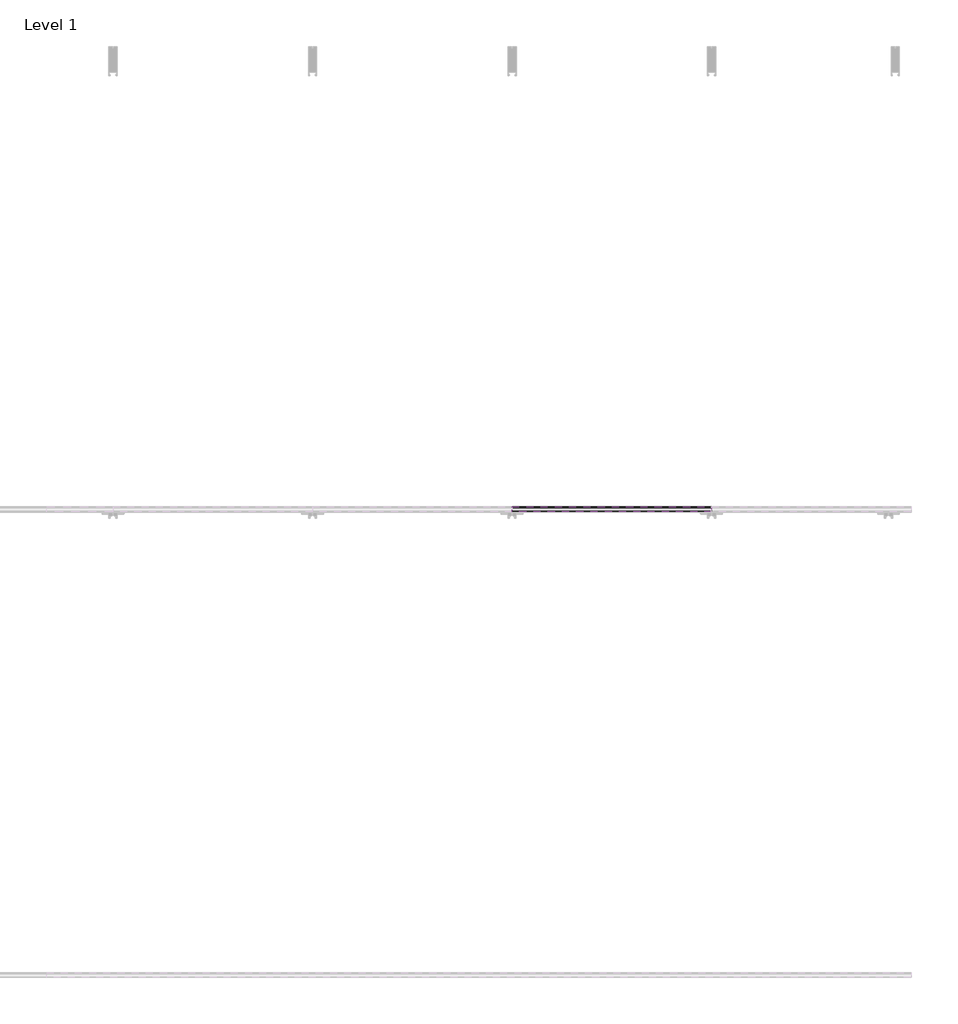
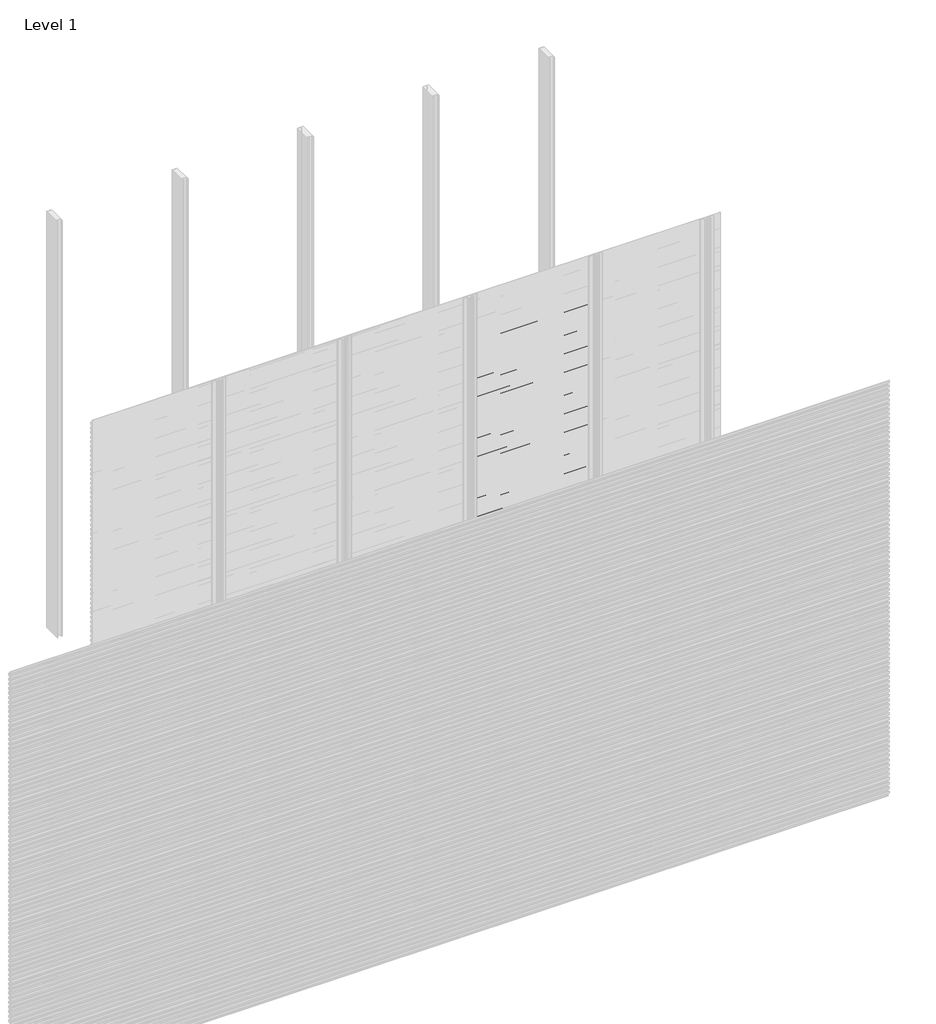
# One storey, part 11 of 96: 77 proxies.
"""IFC4 building model written with IfcOpenShell, lengths in millimetres."""

from ifc_helpers import new_model, si_unit, frame, origin, place, context, project, spatial, polyline, outline, extrude, element, save

model = new_model("IFC4")

# Units and contexts
model_context = context("Model", 3, world=origin())
ifc_project = project(units=[si_unit("LENGTHUNIT", "METRE", prefix="MILLI")], contexts=[model_context])

# Site, building, storey
site = spatial("IfcSite", under=ifc_project)
building = spatial("IfcBuilding", under=site)
storey = spatial("IfcBuildingStorey", under=building, Name="Level 1", Elevation=0.0)

# Proxies
placement = place(None, origin())
element("IfcBuildingElementProxy", 1, Name="Wall Sweeps", at=placement, inside=storey, context=model_context, shape_type="SweptSolid", body=[
    extrude(outline(polyline([(-53977.6, 2672.0655033), (-53977.6, 2657.7779188), (-53982.4114965, 2655.0), (-53982.4114965, 2656.2701706), (-53978.85, 2658.3264016), (-53978.85, 2671.3437382), (-53998.0, 2682.4000799), (-53998.0, 2697.3), (-53996.75, 2697.3), (-53996.75, 2683.1217609), (-53977.6, 2672.0655033)])), frame((4285.7142857, 0.0, 0.0), z_axis=(1.0, 0.0, 0.0), x_axis=(0.0, 1.0, 0.0)), (0.0, 0.0, 1.0), 857.1428571),
])
element("IfcBuildingElementProxy", 2, Name="Wall Sweeps", at=placement, inside=storey, context=model_context, shape_type="SweptSolid", body=[
    extrude(outline(polyline([(-53977.6, 2638.7655033), (-53977.6, 2624.4779188), (-53982.4114965, 2621.7), (-53982.4114965, 2622.9701706), (-53978.85, 2625.0264016), (-53978.85, 2638.0437382), (-53998.0, 2649.1000799), (-53998.0, 2664.0), (-53996.75, 2664.0), (-53996.75, 2649.8217609), (-53977.6, 2638.7655033)])), frame((4285.7142857, 0.0, 0.0), z_axis=(1.0, 0.0, 0.0), x_axis=(0.0, 1.0, 0.0)), (0.0, 0.0, 1.0), 857.1428571),
])
element("IfcBuildingElementProxy", 3, Name="Wall Sweeps", at=placement, inside=storey, context=model_context, shape_type="SweptSolid", body=[
    extrude(outline(polyline([(-53977.6, 2605.4655033), (-53977.6, 2591.1779188), (-53982.4114965, 2588.4), (-53982.4114965, 2589.6701706), (-53978.85, 2591.7264016), (-53978.85, 2604.7437382), (-53998.0, 2615.8000799), (-53998.0, 2630.7), (-53996.75, 2630.7), (-53996.75, 2616.5217609), (-53977.6, 2605.4655033)])), frame((4285.7142857, 0.0, 0.0), z_axis=(1.0, 0.0, 0.0), x_axis=(0.0, 1.0, 0.0)), (0.0, 0.0, 1.0), 857.1428571),
])
element("IfcBuildingElementProxy", 4, Name="Wall Sweeps", at=placement, inside=storey, context=model_context, shape_type="SweptSolid", body=[
    extrude(outline(polyline([(-53977.6, 2572.1655033), (-53977.6, 2557.8779188), (-53982.4114965, 2555.1), (-53982.4114965, 2556.3701706), (-53978.85, 2558.4264016), (-53978.85, 2571.4437382), (-53998.0, 2582.5000799), (-53998.0, 2597.4), (-53996.75, 2597.4), (-53996.75, 2583.2217609), (-53977.6, 2572.1655033)])), frame((4285.7142857, 0.0, 0.0), z_axis=(1.0, 0.0, 0.0), x_axis=(0.0, 1.0, 0.0)), (0.0, 0.0, 1.0), 857.1428571),
])
element("IfcBuildingElementProxy", 5, Name="Wall Sweeps", at=placement, inside=storey, context=model_context, shape_type="SweptSolid", body=[
    extrude(outline(polyline([(-53977.6, 2538.8655033), (-53977.6, 2524.5779188), (-53982.4114965, 2521.8), (-53982.4114965, 2523.0701706), (-53978.85, 2525.1264016), (-53978.85, 2538.1437382), (-53998.0, 2549.2000799), (-53998.0, 2564.1), (-53996.75, 2564.1), (-53996.75, 2549.9217609), (-53977.6, 2538.8655033)])), frame((4285.7142857, 0.0, 0.0), z_axis=(1.0, 0.0, 0.0), x_axis=(0.0, 1.0, 0.0)), (0.0, 0.0, 1.0), 857.1428571),
])
element("IfcBuildingElementProxy", 6, Name="Wall Sweeps", at=placement, inside=storey, context=model_context, shape_type="SweptSolid", body=[
    extrude(outline(polyline([(-53977.6, 2505.5655033), (-53977.6, 2491.2779188), (-53982.4114965, 2488.5), (-53982.4114965, 2489.7701706), (-53978.85, 2491.8264016), (-53978.85, 2504.8437382), (-53998.0, 2515.9000799), (-53998.0, 2530.8), (-53996.75, 2530.8), (-53996.75, 2516.6217609), (-53977.6, 2505.5655033)])), frame((4285.7142857, 0.0, 0.0), z_axis=(1.0, 0.0, 0.0), x_axis=(0.0, 1.0, 0.0)), (0.0, 0.0, 1.0), 857.1428571),
])
element("IfcBuildingElementProxy", 7, Name="Wall Sweeps", at=placement, inside=storey, context=model_context, shape_type="SweptSolid", body=[
    extrude(outline(polyline([(-53977.6, 2472.2655033), (-53977.6, 2457.9779188), (-53982.4114965, 2455.2), (-53982.4114965, 2456.4701706), (-53978.85, 2458.5264016), (-53978.85, 2471.5437382), (-53998.0, 2482.6000799), (-53998.0, 2497.5), (-53996.75, 2497.5), (-53996.75, 2483.3217609), (-53977.6, 2472.2655033)])), frame((4285.7142857, 0.0, 0.0), z_axis=(1.0, 0.0, 0.0), x_axis=(0.0, 1.0, 0.0)), (0.0, 0.0, 1.0), 857.1428571),
])
element("IfcBuildingElementProxy", 8, Name="Wall Sweeps", at=placement, inside=storey, context=model_context, shape_type="SweptSolid", body=[
    extrude(outline(polyline([(-53977.6, 2438.9655033), (-53977.6, 2424.6779188), (-53982.4114965, 2421.9), (-53982.4114965, 2423.1701706), (-53978.85, 2425.2264016), (-53978.85, 2438.2437382), (-53998.0, 2449.3000799), (-53998.0, 2464.2), (-53996.75, 2464.2), (-53996.75, 2450.0217609), (-53977.6, 2438.9655033)])), frame((4285.7142857, 0.0, 0.0), z_axis=(1.0, 0.0, 0.0), x_axis=(0.0, 1.0, 0.0)), (0.0, 0.0, 1.0), 857.1428571),
])
element("IfcBuildingElementProxy", 9, Name="Wall Sweeps", at=placement, inside=storey, context=model_context, shape_type="SweptSolid", body=[
    extrude(outline(polyline([(-53977.6, 2405.6655033), (-53977.6, 2391.3779188), (-53982.4114965, 2388.6), (-53982.4114965, 2389.8701706), (-53978.85, 2391.9264016), (-53978.85, 2404.9437382), (-53998.0, 2416.0000799), (-53998.0, 2430.9), (-53996.75, 2430.9), (-53996.75, 2416.7217609), (-53977.6, 2405.6655033)])), frame((4285.7142857, 0.0, 0.0), z_axis=(1.0, 0.0, 0.0), x_axis=(0.0, 1.0, 0.0)), (0.0, 0.0, 1.0), 857.1428571),
])
element("IfcBuildingElementProxy", 10, Name="Wall Sweeps", at=placement, inside=storey, context=model_context, shape_type="SweptSolid", body=[
    extrude(outline(polyline([(-53977.6, 2372.3655033), (-53977.6, 2358.0779188), (-53982.4114965, 2355.3), (-53982.4114965, 2356.5701706), (-53978.85, 2358.6264016), (-53978.85, 2371.6437382), (-53998.0, 2382.7000799), (-53998.0, 2397.6), (-53996.75, 2397.6), (-53996.75, 2383.4217609), (-53977.6, 2372.3655033)])), frame((4285.7142857, 0.0, 0.0), z_axis=(1.0, 0.0, 0.0), x_axis=(0.0, 1.0, 0.0)), (0.0, 0.0, 1.0), 857.1428571),
])
element("IfcBuildingElementProxy", 11, Name="Wall Sweeps", at=placement, inside=storey, context=model_context, shape_type="SweptSolid", body=[
    extrude(outline(polyline([(-53977.6, 2339.0655033), (-53977.6, 2324.7779188), (-53982.4114965, 2322.0), (-53982.4114965, 2323.2701706), (-53978.85, 2325.3264016), (-53978.85, 2338.3437382), (-53998.0, 2349.4000799), (-53998.0, 2364.3), (-53996.75, 2364.3), (-53996.75, 2350.1217609), (-53977.6, 2339.0655033)])), frame((4285.7142857, 0.0, 0.0), z_axis=(1.0, 0.0, 0.0), x_axis=(0.0, 1.0, 0.0)), (0.0, 0.0, 1.0), 857.1428571),
])
element("IfcBuildingElementProxy", 12, Name="Wall Sweeps", at=placement, inside=storey, context=model_context, shape_type="SweptSolid", body=[
    extrude(outline(polyline([(-53977.6, 2305.7655033), (-53977.6, 2291.4779188), (-53982.4114965, 2288.7), (-53982.4114965, 2289.9701706), (-53978.85, 2292.0264016), (-53978.85, 2305.0437382), (-53998.0, 2316.1000799), (-53998.0, 2331.0), (-53996.75, 2331.0), (-53996.75, 2316.8217609), (-53977.6, 2305.7655033)])), frame((4285.7142857, 0.0, 0.0), z_axis=(1.0, 0.0, 0.0), x_axis=(0.0, 1.0, 0.0)), (0.0, 0.0, 1.0), 857.1428571),
])
element("IfcBuildingElementProxy", 13, Name="Wall Sweeps", at=placement, inside=storey, context=model_context, shape_type="SweptSolid", body=[
    extrude(outline(polyline([(-53977.6, 2272.4655033), (-53977.6, 2258.1779188), (-53982.4114965, 2255.4), (-53982.4114965, 2256.6701706), (-53978.85, 2258.7264016), (-53978.85, 2271.7437382), (-53998.0, 2282.8000799), (-53998.0, 2297.7), (-53996.75, 2297.7), (-53996.75, 2283.5217609), (-53977.6, 2272.4655033)])), frame((4285.7142857, 0.0, 0.0), z_axis=(1.0, 0.0, 0.0), x_axis=(0.0, 1.0, 0.0)), (0.0, 0.0, 1.0), 857.1428571),
])
element("IfcBuildingElementProxy", 14, Name="Wall Sweeps", at=placement, inside=storey, context=model_context, shape_type="SweptSolid", body=[
    extrude(outline(polyline([(-53977.6, 2239.1655033), (-53977.6, 2224.8779188), (-53982.4114965, 2222.1), (-53982.4114965, 2223.3701706), (-53978.85, 2225.4264016), (-53978.85, 2238.4437382), (-53998.0, 2249.5000799), (-53998.0, 2264.4), (-53996.75, 2264.4), (-53996.75, 2250.2217609), (-53977.6, 2239.1655033)])), frame((4285.7142857, 0.0, 0.0), z_axis=(1.0, 0.0, 0.0), x_axis=(0.0, 1.0, 0.0)), (0.0, 0.0, 1.0), 857.1428571),
])
element("IfcBuildingElementProxy", 15, Name="Wall Sweeps", at=placement, inside=storey, context=model_context, shape_type="SweptSolid", body=[
    extrude(outline(polyline([(-53977.6, 2205.8655033), (-53977.6, 2191.5779188), (-53982.4114965, 2188.8), (-53982.4114965, 2190.0701706), (-53978.85, 2192.1264016), (-53978.85, 2205.1437382), (-53998.0, 2216.2000799), (-53998.0, 2231.1), (-53996.75, 2231.1), (-53996.75, 2216.9217609), (-53977.6, 2205.8655033)])), frame((4285.7142857, 0.0, 0.0), z_axis=(1.0, 0.0, 0.0), x_axis=(0.0, 1.0, 0.0)), (0.0, 0.0, 1.0), 857.1428571),
])
element("IfcBuildingElementProxy", 16, Name="Wall Sweeps", at=placement, inside=storey, context=model_context, shape_type="SweptSolid", body=[
    extrude(outline(polyline([(-53977.6, 2172.5655033), (-53977.6, 2158.2779188), (-53982.4114965, 2155.5), (-53982.4114965, 2156.7701706), (-53978.85, 2158.8264016), (-53978.85, 2171.8437382), (-53998.0, 2182.9000799), (-53998.0, 2197.8), (-53996.75, 2197.8), (-53996.75, 2183.6217609), (-53977.6, 2172.5655033)])), frame((4285.7142857, 0.0, 0.0), z_axis=(1.0, 0.0, 0.0), x_axis=(0.0, 1.0, 0.0)), (0.0, 0.0, 1.0), 857.1428571),
])
element("IfcBuildingElementProxy", 17, Name="Wall Sweeps", at=placement, inside=storey, context=model_context, shape_type="SweptSolid", body=[
    extrude(outline(polyline([(-53977.6, 2139.2655033), (-53977.6, 2124.9779188), (-53982.4114965, 2122.2), (-53982.4114965, 2123.4701706), (-53978.85, 2125.5264016), (-53978.85, 2138.5437382), (-53998.0, 2149.6000799), (-53998.0, 2164.5), (-53996.75, 2164.5), (-53996.75, 2150.3217609), (-53977.6, 2139.2655033)])), frame((4285.7142857, 0.0, 0.0), z_axis=(1.0, 0.0, 0.0), x_axis=(0.0, 1.0, 0.0)), (0.0, 0.0, 1.0), 857.1428571),
])
element("IfcBuildingElementProxy", 18, Name="Wall Sweeps", at=placement, inside=storey, context=model_context, shape_type="SweptSolid", body=[
    extrude(outline(polyline([(-53977.6, 2105.9655033), (-53977.6, 2091.6779188), (-53982.4114965, 2088.9), (-53982.4114965, 2090.1701706), (-53978.85, 2092.2264016), (-53978.85, 2105.2437382), (-53998.0, 2116.3000799), (-53998.0, 2131.2), (-53996.75, 2131.2), (-53996.75, 2117.0217609), (-53977.6, 2105.9655033)])), frame((4285.7142857, 0.0, 0.0), z_axis=(1.0, 0.0, 0.0), x_axis=(0.0, 1.0, 0.0)), (0.0, 0.0, 1.0), 857.1428571),
])
element("IfcBuildingElementProxy", 19, Name="Wall Sweeps", at=placement, inside=storey, context=model_context, shape_type="SweptSolid", body=[
    extrude(outline(polyline([(-53977.6, 2072.6655033), (-53977.6, 2058.3779188), (-53982.4114965, 2055.6), (-53982.4114965, 2056.8701706), (-53978.85, 2058.9264016), (-53978.85, 2071.9437382), (-53998.0, 2083.0000799), (-53998.0, 2097.9), (-53996.75, 2097.9), (-53996.75, 2083.7217609), (-53977.6, 2072.6655033)])), frame((4285.7142857, 0.0, 0.0), z_axis=(1.0, 0.0, 0.0), x_axis=(0.0, 1.0, 0.0)), (0.0, 0.0, 1.0), 857.1428571),
])
element("IfcBuildingElementProxy", 20, Name="Wall Sweeps", at=placement, inside=storey, context=model_context, shape_type="SweptSolid", body=[
    extrude(outline(polyline([(-53977.6, 2039.3655033), (-53977.6, 2025.0779188), (-53982.4114965, 2022.3), (-53982.4114965, 2023.5701706), (-53978.85, 2025.6264016), (-53978.85, 2038.6437382), (-53998.0, 2049.7000799), (-53998.0, 2064.6), (-53996.75, 2064.6), (-53996.75, 2050.4217609), (-53977.6, 2039.3655033)])), frame((4285.7142857, 0.0, 0.0), z_axis=(1.0, 0.0, 0.0), x_axis=(0.0, 1.0, 0.0)), (0.0, 0.0, 1.0), 857.1428571),
])
element("IfcBuildingElementProxy", 21, Name="Wall Sweeps", at=placement, inside=storey, context=model_context, shape_type="SweptSolid", body=[
    extrude(outline(polyline([(-53977.6, 2006.0655033), (-53977.6, 1991.7779188), (-53982.4114965, 1989.0), (-53982.4114965, 1990.2701706), (-53978.85, 1992.3264016), (-53978.85, 2005.3437382), (-53998.0, 2016.4000799), (-53998.0, 2031.3), (-53996.75, 2031.3), (-53996.75, 2017.1217609), (-53977.6, 2006.0655033)])), frame((4285.7142857, 0.0, 0.0), z_axis=(1.0, 0.0, 0.0), x_axis=(0.0, 1.0, 0.0)), (0.0, 0.0, 1.0), 857.1428571),
])
element("IfcBuildingElementProxy", 22, Name="Wall Sweeps", at=placement, inside=storey, context=model_context, shape_type="SweptSolid", body=[
    extrude(outline(polyline([(-53977.6, 1972.7655033), (-53977.6, 1958.4779188), (-53982.4114965, 1955.7), (-53982.4114965, 1956.9701706), (-53978.85, 1959.0264016), (-53978.85, 1972.0437382), (-53998.0, 1983.1000799), (-53998.0, 1998.0), (-53996.75, 1998.0), (-53996.75, 1983.8217609), (-53977.6, 1972.7655033)])), frame((4285.7142857, 0.0, 0.0), z_axis=(1.0, 0.0, 0.0), x_axis=(0.0, 1.0, 0.0)), (0.0, 0.0, 1.0), 857.1428571),
])
element("IfcBuildingElementProxy", 23, Name="Wall Sweeps", at=placement, inside=storey, context=model_context, shape_type="SweptSolid", body=[
    extrude(outline(polyline([(-53977.6, 1939.4655033), (-53977.6, 1925.1779188), (-53982.4114965, 1922.4), (-53982.4114965, 1923.6701706), (-53978.85, 1925.7264016), (-53978.85, 1938.7437382), (-53998.0, 1949.8000799), (-53998.0, 1964.7), (-53996.75, 1964.7), (-53996.75, 1950.5217609), (-53977.6, 1939.4655033)])), frame((4285.7142857, 0.0, 0.0), z_axis=(1.0, 0.0, 0.0), x_axis=(0.0, 1.0, 0.0)), (0.0, 0.0, 1.0), 857.1428571),
])
element("IfcBuildingElementProxy", 24, Name="Wall Sweeps", at=placement, inside=storey, context=model_context, shape_type="SweptSolid", body=[
    extrude(outline(polyline([(-53977.6, 1906.1655033), (-53977.6, 1891.8779188), (-53982.4114965, 1889.1), (-53982.4114965, 1890.3701706), (-53978.85, 1892.4264016), (-53978.85, 1905.4437382), (-53998.0, 1916.5000799), (-53998.0, 1931.4), (-53996.75, 1931.4), (-53996.75, 1917.2217609), (-53977.6, 1906.1655033)])), frame((4285.7142857, 0.0, 0.0), z_axis=(1.0, 0.0, 0.0), x_axis=(0.0, 1.0, 0.0)), (0.0, 0.0, 1.0), 857.1428571),
])
element("IfcBuildingElementProxy", 25, Name="Wall Sweeps", at=placement, inside=storey, context=model_context, shape_type="SweptSolid", body=[
    extrude(outline(polyline([(-53977.6, 1872.8655033), (-53977.6, 1858.5779188), (-53982.4114965, 1855.8), (-53982.4114965, 1857.0701706), (-53978.85, 1859.1264016), (-53978.85, 1872.1437382), (-53998.0, 1883.2000799), (-53998.0, 1898.1), (-53996.75, 1898.1), (-53996.75, 1883.9217609), (-53977.6, 1872.8655033)])), frame((4285.7142857, 0.0, 0.0), z_axis=(1.0, 0.0, 0.0), x_axis=(0.0, 1.0, 0.0)), (0.0, 0.0, 1.0), 857.1428571),
])
element("IfcBuildingElementProxy", 26, Name="Wall Sweeps", at=placement, inside=storey, context=model_context, shape_type="SweptSolid", body=[
    extrude(outline(polyline([(-53977.6, 1839.5655033), (-53977.6, 1825.2779188), (-53982.4114965, 1822.5), (-53982.4114965, 1823.7701706), (-53978.85, 1825.8264016), (-53978.85, 1838.8437382), (-53998.0, 1849.9000799), (-53998.0, 1864.8), (-53996.75, 1864.8), (-53996.75, 1850.6217609), (-53977.6, 1839.5655033)])), frame((4285.7142857, 0.0, 0.0), z_axis=(1.0, 0.0, 0.0), x_axis=(0.0, 1.0, 0.0)), (0.0, 0.0, 1.0), 857.1428571),
])
element("IfcBuildingElementProxy", 27, Name="Wall Sweeps", at=placement, inside=storey, context=model_context, shape_type="SweptSolid", body=[
    extrude(outline(polyline([(-53977.6, 1806.2655033), (-53977.6, 1791.9779188), (-53982.4114965, 1789.2), (-53982.4114965, 1790.4701706), (-53978.85, 1792.5264016), (-53978.85, 1805.5437382), (-53998.0, 1816.6000799), (-53998.0, 1831.5), (-53996.75, 1831.5), (-53996.75, 1817.3217609), (-53977.6, 1806.2655033)])), frame((4285.7142857, 0.0, 0.0), z_axis=(1.0, 0.0, 0.0), x_axis=(0.0, 1.0, 0.0)), (0.0, 0.0, 1.0), 857.1428571),
])
element("IfcBuildingElementProxy", 28, Name="Wall Sweeps", at=placement, inside=storey, context=model_context, shape_type="SweptSolid", body=[
    extrude(outline(polyline([(-53977.6, 1772.9655033), (-53977.6, 1758.6779188), (-53982.4114965, 1755.9), (-53982.4114965, 1757.1701706), (-53978.85, 1759.2264016), (-53978.85, 1772.2437382), (-53998.0, 1783.3000799), (-53998.0, 1798.2), (-53996.75, 1798.2), (-53996.75, 1784.0217609), (-53977.6, 1772.9655033)])), frame((4285.7142857, 0.0, 0.0), z_axis=(1.0, 0.0, 0.0), x_axis=(0.0, 1.0, 0.0)), (0.0, 0.0, 1.0), 857.1428571),
])
element("IfcBuildingElementProxy", 29, Name="Wall Sweeps", at=placement, inside=storey, context=model_context, shape_type="SweptSolid", body=[
    extrude(outline(polyline([(-53977.6, 1739.6655033), (-53977.6, 1725.3779188), (-53982.4114965, 1722.6), (-53982.4114965, 1723.8701706), (-53978.85, 1725.9264016), (-53978.85, 1738.9437382), (-53998.0, 1750.0000799), (-53998.0, 1764.9), (-53996.75, 1764.9), (-53996.75, 1750.7217609), (-53977.6, 1739.6655033)])), frame((4285.7142857, 0.0, 0.0), z_axis=(1.0, 0.0, 0.0), x_axis=(0.0, 1.0, 0.0)), (0.0, 0.0, 1.0), 857.1428571),
])
element("IfcBuildingElementProxy", 30, Name="Wall Sweeps", at=placement, inside=storey, context=model_context, shape_type="SweptSolid", body=[
    extrude(outline(polyline([(-53977.6, 1706.3655033), (-53977.6, 1692.0779188), (-53982.4114965, 1689.3), (-53982.4114965, 1690.5701706), (-53978.85, 1692.6264016), (-53978.85, 1705.6437382), (-53998.0, 1716.7000799), (-53998.0, 1731.6), (-53996.75, 1731.6), (-53996.75, 1717.4217609), (-53977.6, 1706.3655033)])), frame((4285.7142857, 0.0, 0.0), z_axis=(1.0, 0.0, 0.0), x_axis=(0.0, 1.0, 0.0)), (0.0, 0.0, 1.0), 857.1428571),
])
element("IfcBuildingElementProxy", 31, Name="Wall Sweeps", at=placement, inside=storey, context=model_context, shape_type="SweptSolid", body=[
    extrude(outline(polyline([(-53977.6, 1673.0655033), (-53977.6, 1658.7779188), (-53982.4114965, 1656.0), (-53982.4114965, 1657.2701706), (-53978.85, 1659.3264016), (-53978.85, 1672.3437382), (-53998.0, 1683.4000799), (-53998.0, 1698.3), (-53996.75, 1698.3), (-53996.75, 1684.1217609), (-53977.6, 1673.0655033)])), frame((4285.7142857, 0.0, 0.0), z_axis=(1.0, 0.0, 0.0), x_axis=(0.0, 1.0, 0.0)), (0.0, 0.0, 1.0), 857.1428571),
])
element("IfcBuildingElementProxy", 32, Name="Wall Sweeps", at=placement, inside=storey, context=model_context, shape_type="SweptSolid", body=[
    extrude(outline(polyline([(-53977.6, 1639.7655033), (-53977.6, 1625.4779188), (-53982.4114965, 1622.7), (-53982.4114965, 1623.9701706), (-53978.85, 1626.0264016), (-53978.85, 1639.0437382), (-53998.0, 1650.1000799), (-53998.0, 1665.0), (-53996.75, 1665.0), (-53996.75, 1650.8217609), (-53977.6, 1639.7655033)])), frame((4285.7142857, 0.0, 0.0), z_axis=(1.0, 0.0, 0.0), x_axis=(0.0, 1.0, 0.0)), (0.0, 0.0, 1.0), 857.1428571),
])
element("IfcBuildingElementProxy", 33, Name="Wall Sweeps", at=placement, inside=storey, context=model_context, shape_type="SweptSolid", body=[
    extrude(outline(polyline([(-53977.6, 1606.4655033), (-53977.6, 1592.1779188), (-53982.4114965, 1589.4), (-53982.4114965, 1590.6701706), (-53978.85, 1592.7264016), (-53978.85, 1605.7437382), (-53998.0, 1616.8000799), (-53998.0, 1631.7), (-53996.75, 1631.7), (-53996.75, 1617.5217609), (-53977.6, 1606.4655033)])), frame((4285.7142857, 0.0, 0.0), z_axis=(1.0, 0.0, 0.0), x_axis=(0.0, 1.0, 0.0)), (0.0, 0.0, 1.0), 857.1428571),
])
element("IfcBuildingElementProxy", 34, Name="Wall Sweeps", at=placement, inside=storey, context=model_context, shape_type="SweptSolid", body=[
    extrude(outline(polyline([(-53977.6, 1573.1655033), (-53977.6, 1558.8779188), (-53982.4114965, 1556.1), (-53982.4114965, 1557.3701706), (-53978.85, 1559.4264016), (-53978.85, 1572.4437382), (-53998.0, 1583.5000799), (-53998.0, 1598.4), (-53996.75, 1598.4), (-53996.75, 1584.2217609), (-53977.6, 1573.1655033)])), frame((4285.7142857, 0.0, 0.0), z_axis=(1.0, 0.0, 0.0), x_axis=(0.0, 1.0, 0.0)), (0.0, 0.0, 1.0), 857.1428571),
])
element("IfcBuildingElementProxy", 35, Name="Wall Sweeps", at=placement, inside=storey, context=model_context, shape_type="SweptSolid", body=[
    extrude(outline(polyline([(-53977.6, 1539.8655033), (-53977.6, 1525.5779188), (-53982.4114965, 1522.8), (-53982.4114965, 1524.0701706), (-53978.85, 1526.1264016), (-53978.85, 1539.1437382), (-53998.0, 1550.2000799), (-53998.0, 1565.1), (-53996.75, 1565.1), (-53996.75, 1550.9217609), (-53977.6, 1539.8655033)])), frame((4285.7142857, 0.0, 0.0), z_axis=(1.0, 0.0, 0.0), x_axis=(0.0, 1.0, 0.0)), (0.0, 0.0, 1.0), 857.1428571),
])
element("IfcBuildingElementProxy", 36, Name="Wall Sweeps", at=placement, inside=storey, context=model_context, shape_type="SweptSolid", body=[
    extrude(outline(polyline([(-53977.6, 1506.5655033), (-53977.6, 1492.2779188), (-53982.4114965, 1489.5), (-53982.4114965, 1490.7701706), (-53978.85, 1492.8264016), (-53978.85, 1505.8437382), (-53998.0, 1516.9000799), (-53998.0, 1531.8), (-53996.75, 1531.8), (-53996.75, 1517.6217609), (-53977.6, 1506.5655033)])), frame((4285.7142857, 0.0, 0.0), z_axis=(1.0, 0.0, 0.0), x_axis=(0.0, 1.0, 0.0)), (0.0, 0.0, 1.0), 857.1428571),
])
element("IfcBuildingElementProxy", 37, Name="Wall Sweeps", at=placement, inside=storey, context=model_context, shape_type="SweptSolid", body=[
    extrude(outline(polyline([(-53977.6, 1473.2655033), (-53977.6, 1458.9779188), (-53982.4114965, 1456.2), (-53982.4114965, 1457.4701706), (-53978.85, 1459.5264016), (-53978.85, 1472.5437382), (-53998.0, 1483.6000799), (-53998.0, 1498.5), (-53996.75, 1498.5), (-53996.75, 1484.3217609), (-53977.6, 1473.2655033)])), frame((4285.7142857, 0.0, 0.0), z_axis=(1.0, 0.0, 0.0), x_axis=(0.0, 1.0, 0.0)), (0.0, 0.0, 1.0), 857.1428571),
])
element("IfcBuildingElementProxy", 38, Name="Wall Sweeps", at=placement, inside=storey, context=model_context, shape_type="SweptSolid", body=[
    extrude(outline(polyline([(-53977.6, 1439.9655033), (-53977.6, 1425.6779188), (-53982.4114965, 1422.9), (-53982.4114965, 1424.1701706), (-53978.85, 1426.2264016), (-53978.85, 1439.2437382), (-53998.0, 1450.3000799), (-53998.0, 1465.2), (-53996.75, 1465.2), (-53996.75, 1451.0217609), (-53977.6, 1439.9655033)])), frame((4285.7142857, 0.0, 0.0), z_axis=(1.0, 0.0, 0.0), x_axis=(0.0, 1.0, 0.0)), (0.0, 0.0, 1.0), 857.1428571),
])
element("IfcBuildingElementProxy", 39, Name="Wall Sweeps", at=placement, inside=storey, context=model_context, shape_type="SweptSolid", body=[
    extrude(outline(polyline([(-53977.6, 1406.6655033), (-53977.6, 1392.3779188), (-53982.4114965, 1389.6), (-53982.4114965, 1390.8701706), (-53978.85, 1392.9264016), (-53978.85, 1405.9437382), (-53998.0, 1417.0000799), (-53998.0, 1431.9), (-53996.75, 1431.9), (-53996.75, 1417.7217609), (-53977.6, 1406.6655033)])), frame((4285.7142857, 0.0, 0.0), z_axis=(1.0, 0.0, 0.0), x_axis=(0.0, 1.0, 0.0)), (0.0, 0.0, 1.0), 857.1428571),
])
element("IfcBuildingElementProxy", 40, Name="Wall Sweeps", at=placement, inside=storey, context=model_context, shape_type="SweptSolid", body=[
    extrude(outline(polyline([(-53977.6, 1373.3655033), (-53977.6, 1359.0779188), (-53982.4114965, 1356.3), (-53982.4114965, 1357.5701706), (-53978.85, 1359.6264016), (-53978.85, 1372.6437382), (-53998.0, 1383.7000799), (-53998.0, 1398.6), (-53996.75, 1398.6), (-53996.75, 1384.4217609), (-53977.6, 1373.3655033)])), frame((4285.7142857, 0.0, 0.0), z_axis=(1.0, 0.0, 0.0), x_axis=(0.0, 1.0, 0.0)), (0.0, 0.0, 1.0), 857.1428571),
])
element("IfcBuildingElementProxy", 41, Name="Wall Sweeps", at=placement, inside=storey, context=model_context, shape_type="SweptSolid", body=[
    extrude(outline(polyline([(-53977.6, 1340.0655033), (-53977.6, 1325.7779188), (-53982.4114965, 1323.0), (-53982.4114965, 1324.2701706), (-53978.85, 1326.3264016), (-53978.85, 1339.3437382), (-53998.0, 1350.4000799), (-53998.0, 1365.3), (-53996.75, 1365.3), (-53996.75, 1351.1217609), (-53977.6, 1340.0655033)])), frame((4285.7142857, 0.0, 0.0), z_axis=(1.0, 0.0, 0.0), x_axis=(0.0, 1.0, 0.0)), (0.0, 0.0, 1.0), 857.1428571),
])
element("IfcBuildingElementProxy", 42, Name="Wall Sweeps", at=placement, inside=storey, context=model_context, shape_type="SweptSolid", body=[
    extrude(outline(polyline([(-53977.6, 1306.7655033), (-53977.6, 1292.4779188), (-53982.4114965, 1289.7), (-53982.4114965, 1290.9701706), (-53978.85, 1293.0264016), (-53978.85, 1306.0437382), (-53998.0, 1317.1000799), (-53998.0, 1332.0), (-53996.75, 1332.0), (-53996.75, 1317.8217609), (-53977.6, 1306.7655033)])), frame((4285.7142857, 0.0, 0.0), z_axis=(1.0, 0.0, 0.0), x_axis=(0.0, 1.0, 0.0)), (0.0, 0.0, 1.0), 857.1428571),
])
element("IfcBuildingElementProxy", 43, Name="Wall Sweeps", at=placement, inside=storey, context=model_context, shape_type="SweptSolid", body=[
    extrude(outline(polyline([(-53977.6, 1273.4655033), (-53977.6, 1259.1779188), (-53982.4114965, 1256.4), (-53982.4114965, 1257.6701706), (-53978.85, 1259.7264016), (-53978.85, 1272.7437382), (-53998.0, 1283.8000799), (-53998.0, 1298.7), (-53996.75, 1298.7), (-53996.75, 1284.5217609), (-53977.6, 1273.4655033)])), frame((4285.7142857, 0.0, 0.0), z_axis=(1.0, 0.0, 0.0), x_axis=(0.0, 1.0, 0.0)), (0.0, 0.0, 1.0), 857.1428571),
])
element("IfcBuildingElementProxy", 44, Name="Wall Sweeps", at=placement, inside=storey, context=model_context, shape_type="SweptSolid", body=[
    extrude(outline(polyline([(-53977.6, 1240.1655033), (-53977.6, 1225.8779188), (-53982.4114965, 1223.1), (-53982.4114965, 1224.3701706), (-53978.85, 1226.4264016), (-53978.85, 1239.4437382), (-53998.0, 1250.5000799), (-53998.0, 1265.4), (-53996.75, 1265.4), (-53996.75, 1251.2217609), (-53977.6, 1240.1655033)])), frame((4285.7142857, 0.0, 0.0), z_axis=(1.0, 0.0, 0.0), x_axis=(0.0, 1.0, 0.0)), (0.0, 0.0, 1.0), 857.1428571),
])
element("IfcBuildingElementProxy", 45, Name="Wall Sweeps", at=placement, inside=storey, context=model_context, shape_type="SweptSolid", body=[
    extrude(outline(polyline([(-53977.6, 1206.8655033), (-53977.6, 1192.5779188), (-53982.4114965, 1189.8), (-53982.4114965, 1191.0701706), (-53978.85, 1193.1264016), (-53978.85, 1206.1437382), (-53998.0, 1217.2000799), (-53998.0, 1232.1), (-53996.75, 1232.1), (-53996.75, 1217.9217609), (-53977.6, 1206.8655033)])), frame((4285.7142857, 0.0, 0.0), z_axis=(1.0, 0.0, 0.0), x_axis=(0.0, 1.0, 0.0)), (0.0, 0.0, 1.0), 857.1428571),
])
element("IfcBuildingElementProxy", 46, Name="Wall Sweeps", at=placement, inside=storey, context=model_context, shape_type="SweptSolid", body=[
    extrude(outline(polyline([(-53977.6, 1173.5655033), (-53977.6, 1159.2779188), (-53982.4114965, 1156.5), (-53982.4114965, 1157.7701706), (-53978.85, 1159.8264016), (-53978.85, 1172.8437382), (-53998.0, 1183.9000799), (-53998.0, 1198.8), (-53996.75, 1198.8), (-53996.75, 1184.6217609), (-53977.6, 1173.5655033)])), frame((4285.7142857, 0.0, 0.0), z_axis=(1.0, 0.0, 0.0), x_axis=(0.0, 1.0, 0.0)), (0.0, 0.0, 1.0), 857.1428571),
])
element("IfcBuildingElementProxy", 47, Name="Wall Sweeps", at=placement, inside=storey, context=model_context, shape_type="SweptSolid", body=[
    extrude(outline(polyline([(-53977.6, 1140.2655033), (-53977.6, 1125.9779188), (-53982.4114965, 1123.2), (-53982.4114965, 1124.4701706), (-53978.85, 1126.5264016), (-53978.85, 1139.5437382), (-53998.0, 1150.6000799), (-53998.0, 1165.5), (-53996.75, 1165.5), (-53996.75, 1151.3217609), (-53977.6, 1140.2655033)])), frame((4285.7142857, 0.0, 0.0), z_axis=(1.0, 0.0, 0.0), x_axis=(0.0, 1.0, 0.0)), (0.0, 0.0, 1.0), 857.1428571),
])
element("IfcBuildingElementProxy", 48, Name="Wall Sweeps", at=placement, inside=storey, context=model_context, shape_type="SweptSolid", body=[
    extrude(outline(polyline([(-53977.6, 1106.9655033), (-53977.6, 1092.6779188), (-53982.4114965, 1089.9), (-53982.4114965, 1091.1701706), (-53978.85, 1093.2264016), (-53978.85, 1106.2437382), (-53998.0, 1117.3000799), (-53998.0, 1132.2), (-53996.75, 1132.2), (-53996.75, 1118.0217609), (-53977.6, 1106.9655033)])), frame((4285.7142857, 0.0, 0.0), z_axis=(1.0, 0.0, 0.0), x_axis=(0.0, 1.0, 0.0)), (0.0, 0.0, 1.0), 857.1428571),
])
element("IfcBuildingElementProxy", 49, Name="Wall Sweeps", at=placement, inside=storey, context=model_context, shape_type="SweptSolid", body=[
    extrude(outline(polyline([(-53977.6, 1073.6655033), (-53977.6, 1059.3779188), (-53982.4114965, 1056.6), (-53982.4114965, 1057.8701706), (-53978.85, 1059.9264016), (-53978.85, 1072.9437382), (-53998.0, 1084.0000799), (-53998.0, 1098.9), (-53996.75, 1098.9), (-53996.75, 1084.7217609), (-53977.6, 1073.6655033)])), frame((4285.7142857, 0.0, 0.0), z_axis=(1.0, 0.0, 0.0), x_axis=(0.0, 1.0, 0.0)), (0.0, 0.0, 1.0), 857.1428571),
])
element("IfcBuildingElementProxy", 50, Name="Wall Sweeps", at=placement, inside=storey, context=model_context, shape_type="SweptSolid", body=[
    extrude(outline(polyline([(-53977.6, 1040.3655033), (-53977.6, 1026.0779188), (-53982.4114965, 1023.3), (-53982.4114965, 1024.5701706), (-53978.85, 1026.6264016), (-53978.85, 1039.6437382), (-53998.0, 1050.7000799), (-53998.0, 1065.6), (-53996.75, 1065.6), (-53996.75, 1051.4217609), (-53977.6, 1040.3655033)])), frame((4285.7142857, 0.0, 0.0), z_axis=(1.0, 0.0, 0.0), x_axis=(0.0, 1.0, 0.0)), (0.0, 0.0, 1.0), 857.1428571),
])
element("IfcBuildingElementProxy", 51, Name="Wall Sweeps", at=placement, inside=storey, context=model_context, shape_type="SweptSolid", body=[
    extrude(outline(polyline([(-53977.6, 1007.0655033), (-53977.6, 992.7779188), (-53982.4114965, 990.0), (-53982.4114965, 991.2701706), (-53978.85, 993.3264016), (-53978.85, 1006.3437382), (-53998.0, 1017.4000799), (-53998.0, 1032.3), (-53996.75, 1032.3), (-53996.75, 1018.1217609), (-53977.6, 1007.0655033)])), frame((4285.7142857, 0.0, 0.0), z_axis=(1.0, 0.0, 0.0), x_axis=(0.0, 1.0, 0.0)), (0.0, 0.0, 1.0), 857.1428571),
])
element("IfcBuildingElementProxy", 52, Name="Wall Sweeps", at=placement, inside=storey, context=model_context, shape_type="SweptSolid", body=[
    extrude(outline(polyline([(-53977.6, 973.7655033), (-53977.6, 959.4779188), (-53982.4114965, 956.7), (-53982.4114965, 957.9701706), (-53978.85, 960.0264016), (-53978.85, 973.0437382), (-53998.0, 984.1000799), (-53998.0, 999.0), (-53996.75, 999.0), (-53996.75, 984.8217609), (-53977.6, 973.7655033)])), frame((4285.7142857, 0.0, 0.0), z_axis=(1.0, 0.0, 0.0), x_axis=(0.0, 1.0, 0.0)), (0.0, 0.0, 1.0), 857.1428571),
])
element("IfcBuildingElementProxy", 53, Name="Wall Sweeps", at=placement, inside=storey, context=model_context, shape_type="SweptSolid", body=[
    extrude(outline(polyline([(-53977.6, 940.4655033), (-53977.6, 926.1779188), (-53982.4114965, 923.4), (-53982.4114965, 924.6701706), (-53978.85, 926.7264016), (-53978.85, 939.7437382), (-53998.0, 950.8000799), (-53998.0, 965.7), (-53996.75, 965.7), (-53996.75, 951.5217609), (-53977.6, 940.4655033)])), frame((4285.7142857, 0.0, 0.0), z_axis=(1.0, 0.0, 0.0), x_axis=(0.0, 1.0, 0.0)), (0.0, 0.0, 1.0), 857.1428571),
])
element("IfcBuildingElementProxy", 54, Name="Wall Sweeps", at=placement, inside=storey, context=model_context, shape_type="SweptSolid", body=[
    extrude(outline(polyline([(-53977.6, 907.1655033), (-53977.6, 892.8779188), (-53982.4114965, 890.1), (-53982.4114965, 891.3701706), (-53978.85, 893.4264016), (-53978.85, 906.4437382), (-53998.0, 917.5000799), (-53998.0, 932.4), (-53996.75, 932.4), (-53996.75, 918.2217609), (-53977.6, 907.1655033)])), frame((4285.7142857, 0.0, 0.0), z_axis=(1.0, 0.0, 0.0), x_axis=(0.0, 1.0, 0.0)), (0.0, 0.0, 1.0), 857.1428571),
])
element("IfcBuildingElementProxy", 55, Name="Wall Sweeps", at=placement, inside=storey, context=model_context, shape_type="SweptSolid", body=[
    extrude(outline(polyline([(-53977.6, 873.8655033), (-53977.6, 859.5779188), (-53982.4114965, 856.8), (-53982.4114965, 858.0701706), (-53978.85, 860.1264016), (-53978.85, 873.1437382), (-53998.0, 884.2000799), (-53998.0, 899.1), (-53996.75, 899.1), (-53996.75, 884.9217609), (-53977.6, 873.8655033)])), frame((4285.7142857, 0.0, 0.0), z_axis=(1.0, 0.0, 0.0), x_axis=(0.0, 1.0, 0.0)), (0.0, 0.0, 1.0), 857.1428571),
])
element("IfcBuildingElementProxy", 56, Name="Wall Sweeps", at=placement, inside=storey, context=model_context, shape_type="SweptSolid", body=[
    extrude(outline(polyline([(-53977.6, 840.5655033), (-53977.6, 826.2779188), (-53982.4114965, 823.5), (-53982.4114965, 824.7701706), (-53978.85, 826.8264016), (-53978.85, 839.8437382), (-53998.0, 850.9000799), (-53998.0, 865.8), (-53996.75, 865.8), (-53996.75, 851.6217609), (-53977.6, 840.5655033)])), frame((4285.7142857, 0.0, 0.0), z_axis=(1.0, 0.0, 0.0), x_axis=(0.0, 1.0, 0.0)), (0.0, 0.0, 1.0), 857.1428571),
])
element("IfcBuildingElementProxy", 57, Name="Wall Sweeps", at=placement, inside=storey, context=model_context, shape_type="SweptSolid", body=[
    extrude(outline(polyline([(-53977.6, 807.2655033), (-53977.6, 792.9779188), (-53982.4114965, 790.2), (-53982.4114965, 791.4701706), (-53978.85, 793.5264016), (-53978.85, 806.5437382), (-53998.0, 817.6000799), (-53998.0, 832.5), (-53996.75, 832.5), (-53996.75, 818.3217609), (-53977.6, 807.2655033)])), frame((4285.7142857, 0.0, 0.0), z_axis=(1.0, 0.0, 0.0), x_axis=(0.0, 1.0, 0.0)), (0.0, 0.0, 1.0), 857.1428571),
])
element("IfcBuildingElementProxy", 58, Name="Wall Sweeps", at=placement, inside=storey, context=model_context, shape_type="SweptSolid", body=[
    extrude(outline(polyline([(-53977.6, 773.9655033), (-53977.6, 759.6779188), (-53982.4114965, 756.9), (-53982.4114965, 758.1701706), (-53978.85, 760.2264016), (-53978.85, 773.2437382), (-53998.0, 784.3000799), (-53998.0, 799.2), (-53996.75, 799.2), (-53996.75, 785.0217609), (-53977.6, 773.9655033)])), frame((4285.7142857, 0.0, 0.0), z_axis=(1.0, 0.0, 0.0), x_axis=(0.0, 1.0, 0.0)), (0.0, 0.0, 1.0), 857.1428571),
])
element("IfcBuildingElementProxy", 59, Name="Wall Sweeps", at=placement, inside=storey, context=model_context, shape_type="SweptSolid", body=[
    extrude(outline(polyline([(-53977.6, 740.6655033), (-53977.6, 726.3779188), (-53982.4114965, 723.6), (-53982.4114965, 724.8701706), (-53978.85, 726.9264016), (-53978.85, 739.9437382), (-53998.0, 751.0000799), (-53998.0, 765.9), (-53996.75, 765.9), (-53996.75, 751.7217609), (-53977.6, 740.6655033)])), frame((4285.7142857, 0.0, 0.0), z_axis=(1.0, 0.0, 0.0), x_axis=(0.0, 1.0, 0.0)), (0.0, 0.0, 1.0), 857.1428571),
])
element("IfcBuildingElementProxy", 60, Name="Wall Sweeps", at=placement, inside=storey, context=model_context, shape_type="SweptSolid", body=[
    extrude(outline(polyline([(-53977.6, 707.3655033), (-53977.6, 693.0779188), (-53982.4114965, 690.3), (-53982.4114965, 691.5701706), (-53978.85, 693.6264016), (-53978.85, 706.6437382), (-53998.0, 717.7000799), (-53998.0, 732.6), (-53996.75, 732.6), (-53996.75, 718.4217609), (-53977.6, 707.3655033)])), frame((4285.7142857, 0.0, 0.0), z_axis=(1.0, 0.0, 0.0), x_axis=(0.0, 1.0, 0.0)), (0.0, 0.0, 1.0), 857.1428571),
])
element("IfcBuildingElementProxy", 61, Name="Wall Sweeps", at=placement, inside=storey, context=model_context, shape_type="SweptSolid", body=[
    extrude(outline(polyline([(-53977.6, 674.0655033), (-53977.6, 659.7779188), (-53982.4114965, 657.0), (-53982.4114965, 658.2701706), (-53978.85, 660.3264016), (-53978.85, 673.3437382), (-53998.0, 684.4000799), (-53998.0, 699.3), (-53996.75, 699.3), (-53996.75, 685.1217609), (-53977.6, 674.0655033)])), frame((4285.7142857, 0.0, 0.0), z_axis=(1.0, 0.0, 0.0), x_axis=(0.0, 1.0, 0.0)), (0.0, 0.0, 1.0), 857.1428571),
])
element("IfcBuildingElementProxy", 62, Name="Wall Sweeps", at=placement, inside=storey, context=model_context, shape_type="SweptSolid", body=[
    extrude(outline(polyline([(-53977.6, 640.7655033), (-53977.6, 626.4779188), (-53982.4114965, 623.7), (-53982.4114965, 624.9701706), (-53978.85, 627.0264016), (-53978.85, 640.0437382), (-53998.0, 651.1000799), (-53998.0, 666.0), (-53996.75, 666.0), (-53996.75, 651.8217609), (-53977.6, 640.7655033)])), frame((4285.7142857, 0.0, 0.0), z_axis=(1.0, 0.0, 0.0), x_axis=(0.0, 1.0, 0.0)), (0.0, 0.0, 1.0), 857.1428571),
])
element("IfcBuildingElementProxy", 63, Name="Wall Sweeps", at=placement, inside=storey, context=model_context, shape_type="SweptSolid", body=[
    extrude(outline(polyline([(-53977.6, 607.4655033), (-53977.6, 593.1779188), (-53982.4114965, 590.4), (-53982.4114965, 591.6701706), (-53978.85, 593.7264016), (-53978.85, 606.7437382), (-53998.0, 617.8000799), (-53998.0, 632.7), (-53996.75, 632.7), (-53996.75, 618.5217609), (-53977.6, 607.4655033)])), frame((4285.7142857, 0.0, 0.0), z_axis=(1.0, 0.0, 0.0), x_axis=(0.0, 1.0, 0.0)), (0.0, 0.0, 1.0), 857.1428571),
])
element("IfcBuildingElementProxy", 64, Name="Wall Sweeps", at=placement, inside=storey, context=model_context, shape_type="SweptSolid", body=[
    extrude(outline(polyline([(-53977.6, 574.1655033), (-53977.6, 559.8779188), (-53982.4114965, 557.1), (-53982.4114965, 558.3701706), (-53978.85, 560.4264016), (-53978.85, 573.4437382), (-53998.0, 584.5000799), (-53998.0, 599.4), (-53996.75, 599.4), (-53996.75, 585.2217609), (-53977.6, 574.1655033)])), frame((4285.7142857, 0.0, 0.0), z_axis=(1.0, 0.0, 0.0), x_axis=(0.0, 1.0, 0.0)), (0.0, 0.0, 1.0), 857.1428571),
])
element("IfcBuildingElementProxy", 65, Name="Wall Sweeps", at=placement, inside=storey, context=model_context, shape_type="SweptSolid", body=[
    extrude(outline(polyline([(-53977.6, 540.8655033), (-53977.6, 526.5779188), (-53982.4114965, 523.8), (-53982.4114965, 525.0701706), (-53978.85, 527.1264016), (-53978.85, 540.1437382), (-53998.0, 551.2000799), (-53998.0, 566.1), (-53996.75, 566.1), (-53996.75, 551.9217609), (-53977.6, 540.8655033)])), frame((4285.7142857, 0.0, 0.0), z_axis=(1.0, 0.0, 0.0), x_axis=(0.0, 1.0, 0.0)), (0.0, 0.0, 1.0), 857.1428571),
])
element("IfcBuildingElementProxy", 66, Name="Wall Sweeps", at=placement, inside=storey, context=model_context, shape_type="SweptSolid", body=[
    extrude(outline(polyline([(-53977.6, 507.5655033), (-53977.6, 493.2779188), (-53982.4114965, 490.5), (-53982.4114965, 491.7701706), (-53978.85, 493.8264016), (-53978.85, 506.8437382), (-53998.0, 517.9000799), (-53998.0, 532.8), (-53996.75, 532.8), (-53996.75, 518.6217609), (-53977.6, 507.5655033)])), frame((4285.7142857, 0.0, 0.0), z_axis=(1.0, 0.0, 0.0), x_axis=(0.0, 1.0, 0.0)), (0.0, 0.0, 1.0), 857.1428571),
])
element("IfcBuildingElementProxy", 67, Name="Wall Sweeps", at=placement, inside=storey, context=model_context, shape_type="SweptSolid", body=[
    extrude(outline(polyline([(-53977.6, 474.2655033), (-53977.6, 459.9779188), (-53982.4114965, 457.2), (-53982.4114965, 458.4701706), (-53978.85, 460.5264016), (-53978.85, 473.5437382), (-53998.0, 484.6000799), (-53998.0, 499.5), (-53996.75, 499.5), (-53996.75, 485.3217609), (-53977.6, 474.2655033)])), frame((4285.7142857, 0.0, 0.0), z_axis=(1.0, 0.0, 0.0), x_axis=(0.0, 1.0, 0.0)), (0.0, 0.0, 1.0), 857.1428571),
])
element("IfcBuildingElementProxy", 68, Name="Wall Sweeps", at=placement, inside=storey, context=model_context, shape_type="SweptSolid", body=[
    extrude(outline(polyline([(-53977.6, 440.9655033), (-53977.6, 426.6779188), (-53982.4114965, 423.9), (-53982.4114965, 425.1701706), (-53978.85, 427.2264016), (-53978.85, 440.2437382), (-53998.0, 451.3000799), (-53998.0, 466.2), (-53996.75, 466.2), (-53996.75, 452.0217609), (-53977.6, 440.9655033)])), frame((4285.7142857, 0.0, 0.0), z_axis=(1.0, 0.0, 0.0), x_axis=(0.0, 1.0, 0.0)), (0.0, 0.0, 1.0), 857.1428571),
])
element("IfcBuildingElementProxy", 69, Name="Wall Sweeps", at=placement, inside=storey, context=model_context, shape_type="SweptSolid", body=[
    extrude(outline(polyline([(-53977.6, 407.6655033), (-53977.6, 393.3779188), (-53982.4114965, 390.6), (-53982.4114965, 391.8701706), (-53978.85, 393.9264016), (-53978.85, 406.9437382), (-53998.0, 418.0000799), (-53998.0, 432.9), (-53996.75, 432.9), (-53996.75, 418.7217609), (-53977.6, 407.6655033)])), frame((4285.7142857, 0.0, 0.0), z_axis=(1.0, 0.0, 0.0), x_axis=(0.0, 1.0, 0.0)), (0.0, 0.0, 1.0), 857.1428571),
])
element("IfcBuildingElementProxy", 70, Name="Wall Sweeps", at=placement, inside=storey, context=model_context, shape_type="SweptSolid", body=[
    extrude(outline(polyline([(-53977.6, 374.3655033), (-53977.6, 360.0779188), (-53982.4114965, 357.3), (-53982.4114965, 358.5701706), (-53978.85, 360.6264016), (-53978.85, 373.6437382), (-53998.0, 384.7000799), (-53998.0, 399.6), (-53996.75, 399.6), (-53996.75, 385.4217609), (-53977.6, 374.3655033)])), frame((4285.7142857, 0.0, 0.0), z_axis=(1.0, 0.0, 0.0), x_axis=(0.0, 1.0, 0.0)), (0.0, 0.0, 1.0), 857.1428571),
])
element("IfcBuildingElementProxy", 71, Name="Wall Sweeps", at=placement, inside=storey, context=model_context, shape_type="SweptSolid", body=[
    extrude(outline(polyline([(-53977.6, 341.0655033), (-53977.6, 326.7779188), (-53982.4114965, 324.0), (-53982.4114965, 325.2701706), (-53978.85, 327.3264016), (-53978.85, 340.3437382), (-53998.0, 351.4000799), (-53998.0, 366.3), (-53996.75, 366.3), (-53996.75, 352.1217609), (-53977.6, 341.0655033)])), frame((4285.7142857, 0.0, 0.0), z_axis=(1.0, 0.0, 0.0), x_axis=(0.0, 1.0, 0.0)), (0.0, 0.0, 1.0), 857.1428571),
])
element("IfcBuildingElementProxy", 72, Name="Wall Sweeps", at=placement, inside=storey, context=model_context, shape_type="SweptSolid", body=[
    extrude(outline(polyline([(-53977.6, 307.7655033), (-53977.6, 293.4779188), (-53982.4114965, 290.7), (-53982.4114965, 291.9701706), (-53978.85, 294.0264016), (-53978.85, 307.0437382), (-53998.0, 318.1000799), (-53998.0, 333.0), (-53996.75, 333.0), (-53996.75, 318.8217609), (-53977.6, 307.7655033)])), frame((4285.7142857, 0.0, 0.0), z_axis=(1.0, 0.0, 0.0), x_axis=(0.0, 1.0, 0.0)), (0.0, 0.0, 1.0), 857.1428571),
])
element("IfcBuildingElementProxy", 73, Name="Wall Sweeps", at=placement, inside=storey, context=model_context, shape_type="SweptSolid", body=[
    extrude(outline(polyline([(-53977.6, 274.4655033), (-53977.6, 260.1779188), (-53982.4114965, 257.4), (-53982.4114965, 258.6701706), (-53978.85, 260.7264016), (-53978.85, 273.7437382), (-53998.0, 284.8000799), (-53998.0, 299.7), (-53996.75, 299.7), (-53996.75, 285.5217609), (-53977.6, 274.4655033)])), frame((4285.7142857, 0.0, 0.0), z_axis=(1.0, 0.0, 0.0), x_axis=(0.0, 1.0, 0.0)), (0.0, 0.0, 1.0), 857.1428571),
])
element("IfcBuildingElementProxy", 74, Name="Wall Sweeps", at=placement, inside=storey, context=model_context, shape_type="SweptSolid", body=[
    extrude(outline(polyline([(-53977.6, 241.1655033), (-53977.6, 226.8779188), (-53982.4114965, 224.1), (-53982.4114965, 225.3701706), (-53978.85, 227.4264016), (-53978.85, 240.4437382), (-53998.0, 251.5000799), (-53998.0, 266.4), (-53996.75, 266.4), (-53996.75, 252.2217609), (-53977.6, 241.1655033)])), frame((4285.7142857, 0.0, 0.0), z_axis=(1.0, 0.0, 0.0), x_axis=(0.0, 1.0, 0.0)), (0.0, 0.0, 1.0), 857.1428571),
])
element("IfcBuildingElementProxy", 75, Name="Wall Sweeps", at=placement, inside=storey, context=model_context, shape_type="SweptSolid", body=[
    extrude(outline(polyline([(-53977.6, 207.8655033), (-53977.6, 193.5779188), (-53982.4114965, 190.8), (-53982.4114965, 192.0701706), (-53978.85, 194.1264016), (-53978.85, 207.1437382), (-53998.0, 218.2000799), (-53998.0, 233.1), (-53996.75, 233.1), (-53996.75, 218.9217609), (-53977.6, 207.8655033)])), frame((4285.7142857, 0.0, 0.0), z_axis=(1.0, 0.0, 0.0), x_axis=(0.0, 1.0, 0.0)), (0.0, 0.0, 1.0), 857.1428571),
])
element("IfcBuildingElementProxy", 76, Name="Wall Sweeps", at=placement, inside=storey, context=model_context, shape_type="SweptSolid", body=[
    extrude(outline(polyline([(-53977.6, 174.5655033), (-53977.6, 160.2779188), (-53982.4114965, 157.5), (-53982.4114965, 158.7701706), (-53978.85, 160.8264016), (-53978.85, 173.8437382), (-53998.0, 184.9000799), (-53998.0, 199.8), (-53996.75, 199.8), (-53996.75, 185.6217609), (-53977.6, 174.5655033)])), frame((4285.7142857, 0.0, 0.0), z_axis=(1.0, 0.0, 0.0), x_axis=(0.0, 1.0, 0.0)), (0.0, 0.0, 1.0), 857.1428571),
])
element("IfcBuildingElementProxy", 77, Name="Wall Sweeps", at=placement, inside=storey, context=model_context, shape_type="SweptSolid", body=[
    extrude(outline(polyline([(-53977.6, 141.2655033), (-53977.6, 126.9779188), (-53982.4114965, 124.2), (-53982.4114965, 125.4701706), (-53978.85, 127.5264016), (-53978.85, 140.5437382), (-53998.0, 151.6000799), (-53998.0, 166.5), (-53996.75, 166.5), (-53996.75, 152.3217609), (-53977.6, 141.2655033)])), frame((4285.7142857, 0.0, 0.0), z_axis=(1.0, 0.0, 0.0), x_axis=(0.0, 1.0, 0.0)), (0.0, 0.0, 1.0), 857.1428571),
])

save(model, "model.ifc")
